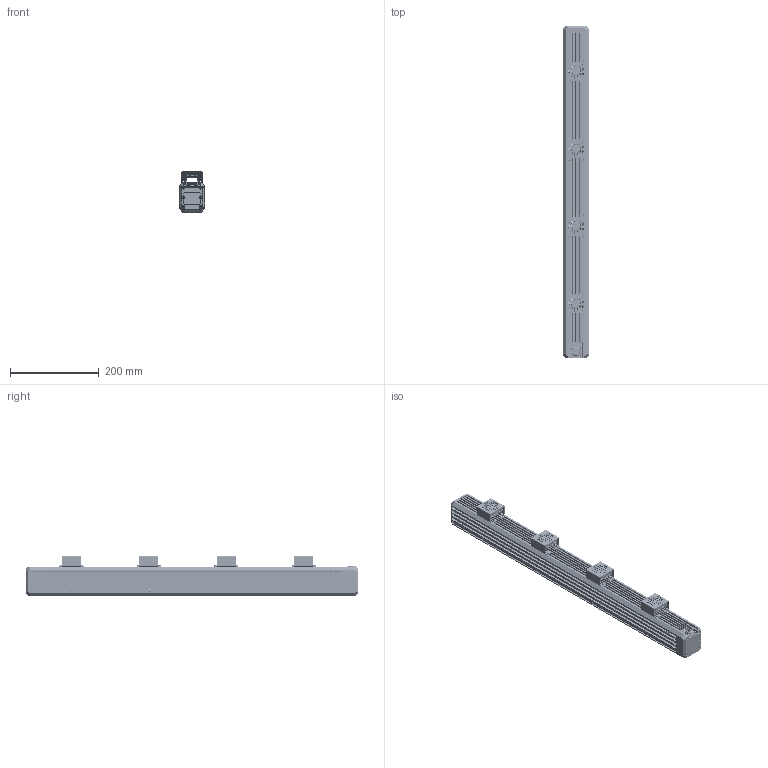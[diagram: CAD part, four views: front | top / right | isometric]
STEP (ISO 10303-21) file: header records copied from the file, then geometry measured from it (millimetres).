
FILE_DESCRIPTION((''),'2;1');
FILE_NAME('MV-LTDS-H-700-W','2022-09-02T16:46:48',('huguozhe'),(''),'CREO PARAMETRIC BY PTC INC, 2020044','CREO PARAMETRIC BY PTC INC, 2020044','');
FILE_SCHEMA(('AUTOMOTIVE_DESIGN { 1 0 10303 214 1 1 1 1 }'));
Products named in the file (1): MV-LTDS-H-700-W
Bounding box: 58 x 750 x 90.6 mm (x, y, z)
Volume: 2332854.2 mm3; surface area: 550381.4 mm2
Topology: 1 solids, 237 shells, 4815 faces, 12449 edges, 7750 vertices
Faces by surface type: plane 2362, cylinder 1597, cone 554, torus 248, bspline 54
Entity records: 173777 total; most frequent: CARTESIAN_POINT 33692, DIRECTION 25978, ORIENTED_EDGE 23822, EDGE_CURVE 12189, AXIS2_PLACEMENT_3D 9901, VERTEX_POINT 7750, VECTOR 6176, LINE 6176
